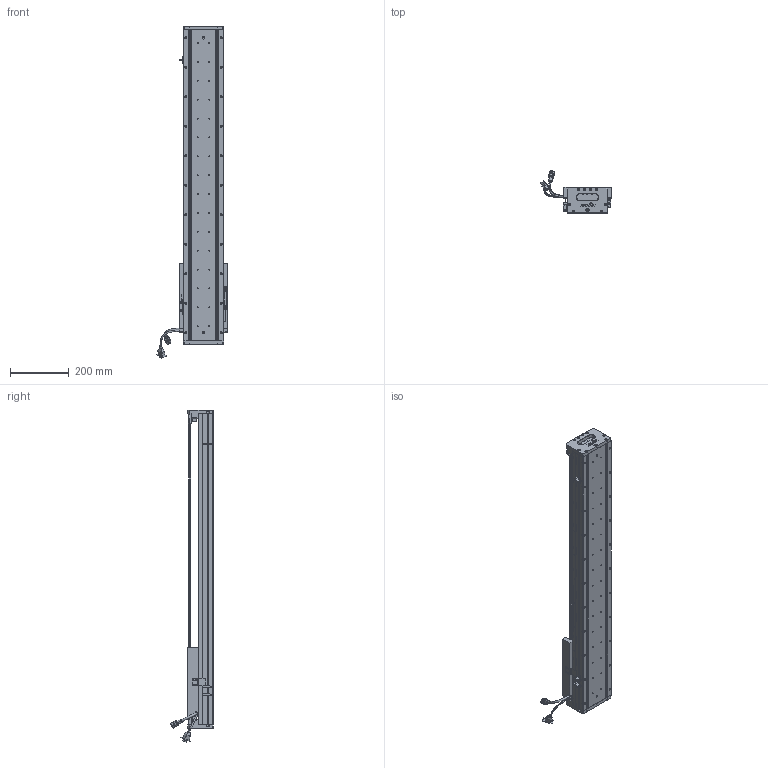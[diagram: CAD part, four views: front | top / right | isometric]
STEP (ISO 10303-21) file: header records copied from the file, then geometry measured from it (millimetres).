
FILE_DESCRIPTION (( 'STEP AP203' ), '1' );
FILE_NAME ('Z3-RY140D-1-L500-B-K.SLDASM_0750.step', '2021-05-17T08:00:40', ( '盈信电脑' ), ( '东莞市道滘镇水果街19号' ), 'SwSTEP 2.0', 'SolidWorks 2016', '' );
FILE_SCHEMA (( 'CONFIG_CONTROL_DESIGN' ));
Length unit declared in the file: millimetre
Products named in the file (36): Z-RY140詩湍狟揤裔; Z3-RY140圉猾敕臏賑輸(21遴); 140蚥薯蝶輸; SCALE-Part-1; SCREW-M1.7-1; HARNESS-Part-2; HARNESS-Part-1; 覜茼ん672; 榋妏寠巭燃_暯_M2_2; Z3-RY140-L500直线电机模组底座_0750; HOLDER0; COVER-Part-1; LABEL-Part-1; SCREW-M1.7; SCREW-M1.6-1; SCALE; Z3-RY140D-1-L500-B-K.SLDASM_0750; SCREW-M1.6-3; PBU_SHEET; 140-Z-臏賑輸盄裔(21遴); LABEL; Z-RY140詩湍奻揤裔; SCREW-M1.6; SCALE-Part-2; Z3-RY140-L500詩湍100mm遵_0750; SEAL-Part-1; SEAL; HARNESS; 140雄赽晤鎢ん堤盄; PSLH080_PSLF2; 080黍杅芛假蚾釱21遴; COVER; Z-140詩湍傷裔啣; SHIELDPLATE; Z-RY140感应器672光电感应片; SCREW-M1.6-2
Assembly tree (41 placements, depth 4):
  Z3-RY140D-1-L500-B-K.SLDASM_0750
    Z3-RY140-L500直线电机模组底座_0750
    Z-RY140感应器672光电感应片
    Z3-RY140圉猾敕臏賑輸(21遴)
    覜茼ん672  x3
    Z3-RY140-L500詩湍100mm遵_0750
    PSLH080_PSLF2
      SCALE
        SCALE-Part-1
        SCALE-Part-2
      HARNESS
        HARNESS-Part-1
        HARNESS-Part-2
      LABEL
        LABEL-Part-1
      COVER
        COVER-Part-1
      SEAL
        SEAL-Part-1
      榋妏寠巭燃_暯_M2_2
      SHIELDPLATE
      SCREW-M1.7
      SCREW-M1.7-1
      PBU_SHEET
      SCREW-M1.6
      SCREW-M1.6-1
      SCREW-M1.6-2
      SCREW-M1.6-3
      HOLDER0
    080黍杅芛假蚾釱21遴
    140-Z-臏賑輸盄裔(21遴)
    Z-140詩湍傷裔啣  x2
    Z-RY140詩湍狟揤裔  x2
    Z-RY140詩湍奻揤裔  x2
    140蚥薯蝶輸  x2
    140雄赽晤鎢ん堤盄
Bounding box: 239.84 x 143.88 x 1125.88 mm (x, y, z)
Volume: 4185627.5 mm3; surface area: 1080197.9 mm2
Topology: 36 solids, 36 shells, 3030 faces, 8010 edges, 5071 vertices
Faces by surface type: cylinder 1448, plane 1158, cone 302, torus 69, bspline 53
Entity records: 89462 total; most frequent: CARTESIAN_POINT 22879, ORIENTED_EDGE 13140, DIRECTION 12914, EDGE_CURVE 6570, AXIS2_PLACEMENT_3D 4754, VERTEX_POINT 4239, VECTOR 3406, LINE 3406
